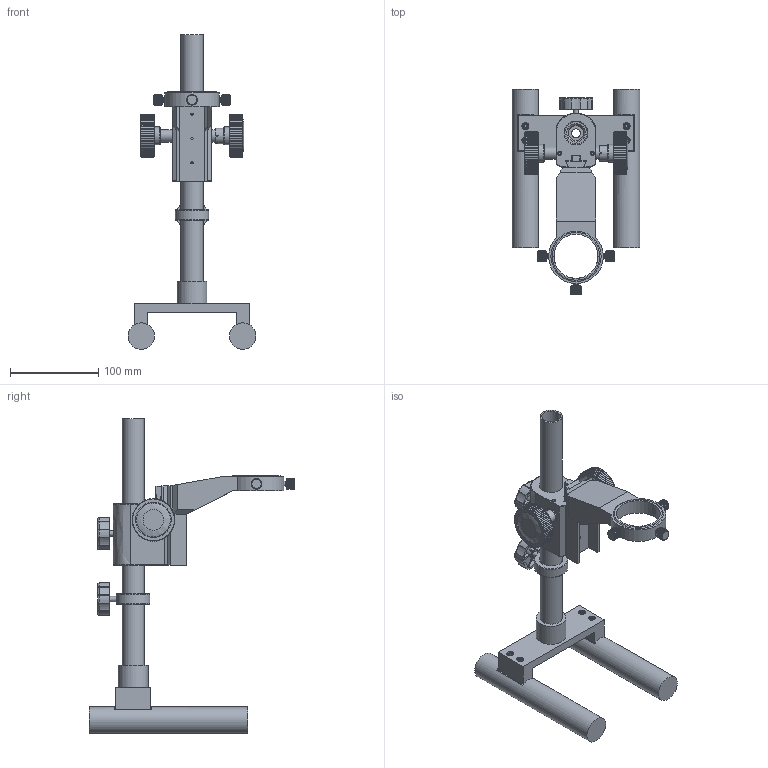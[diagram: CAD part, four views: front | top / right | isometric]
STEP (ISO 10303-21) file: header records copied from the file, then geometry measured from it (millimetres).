
FILE_DESCRIPTION(('STEP AP214'),'1');
FILE_NAME('GR-STD4-R.stp','2026-04-23T03:29:03',(' '),(' '),'Spatial InterOp 3D',' ',' ');
FILE_SCHEMA(('AUTOMOTIVE_DESIGN { 1 0 10303 214 1 1 1 1 }'));
Length unit declared in the file: metre
Products named in the file (4): GR-STD4-R; Component1; Component2; Component3
Assembly tree (3 placements, depth 2):
  GR-STD4-R
    Component1
    Component2
    Component3
Bounding box: 145 x 233.59 x 357 mm (x, y, z)
Volume: 698728.6 mm3; surface area: 198926.5 mm2
Topology: 4 solids, 5 shells, 2083 faces, 5074 edges, 3100 vertices
Faces by surface type: plane 1485, cylinder 385, bspline 140, torus 52, cone 21
Full cylindrical faces by diameter (mm): 1.5 x4, 2.5 x3, 3.9 x2, 4 x2, 4.6 x3, 4.8 x3, 5.5 x3, 5.7 x3, 5.8 x1, 6 x2, 6.5 x1, 6.6 x4, 6.9 x5, 7 x2, 8 x4, 9.8 x2, 9.9 x2, 10 x3, 10.5 x1, 11.7 x5, 14 x2, 14.9 x2, 17.4 x1, 17.6 x1, 18 x2, 20.2 x2, 21 x2, 25 x3, 28.8 x2, 30 x2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
Entity records: 152078 total; most frequent: CARTESIAN_POINT 63345, ORIENTED_EDGE 9720, DIRECTION 9628, STYLED_ITEM 6947, PRESENTATION_STYLE_ASSIGNMENT 6947, COLOUR_RGB 6947, EDGE_CURVE 4860, CURVE_STYLE 4860
